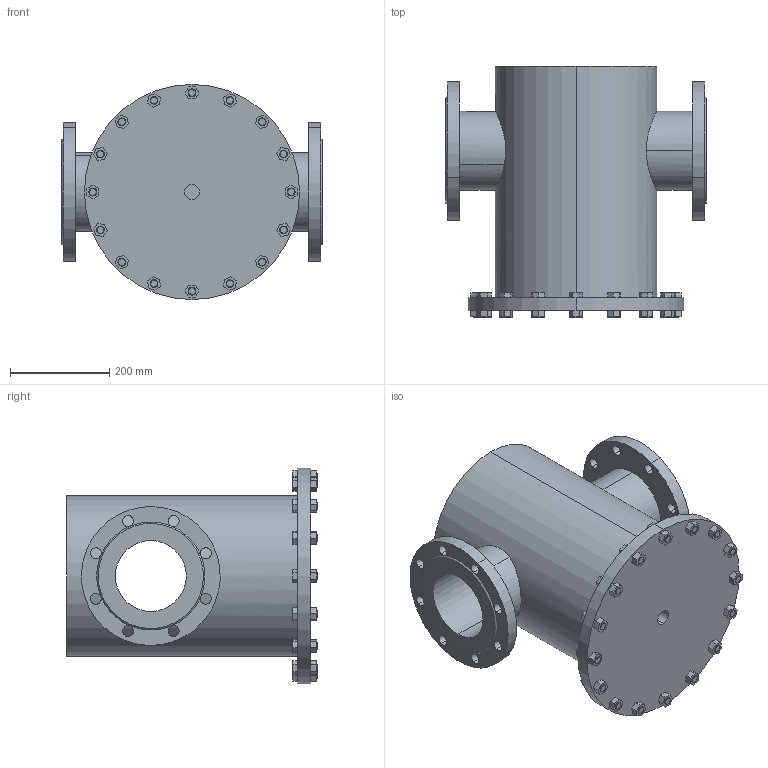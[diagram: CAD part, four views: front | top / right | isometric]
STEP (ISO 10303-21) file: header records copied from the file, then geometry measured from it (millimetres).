
FILE_DESCRIPTION (( 'STEP AP214' ), '1' );
FILE_NAME ('DN150 PN16.STEP', '2025-08-08T13:44:44', ( '' ), ( '' ), 'SwSTEP 2.0', 'SolidWorks 2023', '' );
FILE_SCHEMA (( 'AUTOMOTIVE_DESIGN' ));
Length unit declared in the file: millimetre
Products named in the file (1): DN150 PN16
Bounding box: 526 x 506 x 434 mm (x, y, z)
Volume: 39835875 mm3; surface area: 1362571.5 mm2
Topology: 1 solids, 1 shells, 340 faces, 864 edges, 568 vertices
Faces by surface type: plane 252, cylinder 52, cone 36
Entity records: 11173 total; most frequent: CARTESIAN_POINT 2121, DIRECTION 1738, ORIENTED_EDGE 1728, EDGE_CURVE 864, VECTOR 664, LINE 664, VERTEX_POINT 568, AXIS2_PLACEMENT_3D 537
